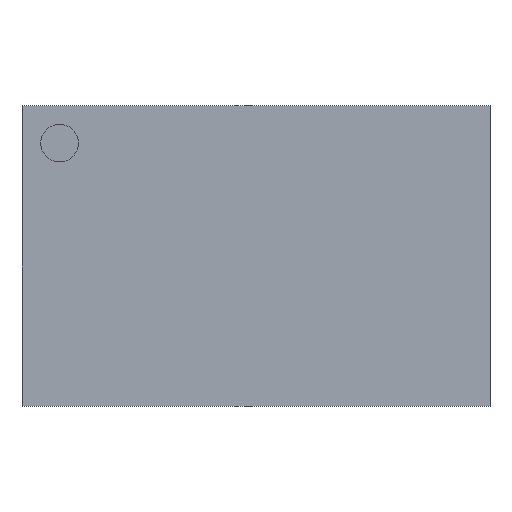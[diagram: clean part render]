
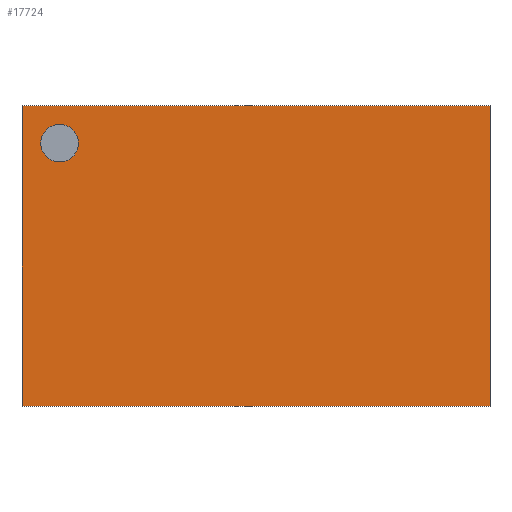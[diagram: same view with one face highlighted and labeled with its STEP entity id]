
A CAD part, top view. The second image highlights one B-rep face of the part: STEP entity #17724.
In plain terms, the highlighted planar face has unit normal (0, 0, 1).
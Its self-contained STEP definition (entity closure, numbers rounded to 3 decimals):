
#17535 = VERTEX_POINT('',#17536);
#17536 = CARTESIAN_POINT('',(-7.,-4.5,1.3));
#17543 = PLANE('',#17544);
#17544 = AXIS2_PLACEMENT_3D('',#17545,#17546,#17547);
#17545 = CARTESIAN_POINT('',(-7.,-4.5,0.25));
#17546 = DIRECTION('',(1.,0.,0.));
#17547 = DIRECTION('',(0.,0.,1.));
#17555 = PLANE('',#17556);
#17556 = AXIS2_PLACEMENT_3D('',#17557,#17558,#17559);
#17557 = CARTESIAN_POINT('',(-7.,-4.5,0.25));
#17558 = DIRECTION('',(0.,1.,0.));
#17559 = DIRECTION('',(0.,0.,1.));
#17596 = VERTEX_POINT('',#17597);
#17597 = CARTESIAN_POINT('',(-7.,4.5,1.3));
#17611 = PLANE('',#17612);
#17612 = AXIS2_PLACEMENT_3D('',#17613,#17614,#17615);
#17613 = CARTESIAN_POINT('',(-7.,4.5,0.25));
#17614 = DIRECTION('',(0.,1.,0.));
#17615 = DIRECTION('',(0.,0.,1.));
#17623 = EDGE_CURVE('',#17535,#17596,#17624,.T.);
#17624 = SURFACE_CURVE('',#17625,(#17629,#17636),.PCURVE_S1.);
#17625 = LINE('',#17626,#17627);
#17626 = CARTESIAN_POINT('',(-7.,-4.5,1.3));
#17627 = VECTOR('',#17628,1.);
#17628 = DIRECTION('',(0.,1.,0.));
#17629 = PCURVE('',#17543,#17630);
#17630 = DEFINITIONAL_REPRESENTATION('',(#17631),#17635);
#17631 = LINE('',#17632,#17633);
#17632 = CARTESIAN_POINT('',(1.05,0.));
#17633 = VECTOR('',#17634,1.);
#17634 = DIRECTION('',(0.,-1.));
#17635 = ( GEOMETRIC_REPRESENTATION_CONTEXT(2) 
PARAMETRIC_REPRESENTATION_CONTEXT() REPRESENTATION_CONTEXT('2D SPACE',''
  ) );
#17636 = PCURVE('',#17637,#17642);
#17637 = PLANE('',#17638);
#17638 = AXIS2_PLACEMENT_3D('',#17639,#17640,#17641);
#17639 = CARTESIAN_POINT('',(-7.,-4.5,1.3));
#17640 = DIRECTION('',(0.,0.,1.));
#17641 = DIRECTION('',(1.,0.,0.));
#17642 = DEFINITIONAL_REPRESENTATION('',(#17643),#17647);
#17643 = LINE('',#17644,#17645);
#17644 = CARTESIAN_POINT('',(0.,0.));
#17645 = VECTOR('',#17646,1.);
#17646 = DIRECTION('',(0.,1.));
#17647 = ( GEOMETRIC_REPRESENTATION_CONTEXT(2) 
PARAMETRIC_REPRESENTATION_CONTEXT() REPRESENTATION_CONTEXT('2D SPACE',''
  ) );
#17676 = EDGE_CURVE('',#17535,#17677,#17679,.T.);
#17677 = VERTEX_POINT('',#17678);
#17678 = CARTESIAN_POINT('',(7.,-4.5,1.3));
#17679 = SURFACE_CURVE('',#17680,(#17684,#17691),.PCURVE_S1.);
#17680 = LINE('',#17681,#17682);
#17681 = CARTESIAN_POINT('',(-7.,-4.5,1.3));
#17682 = VECTOR('',#17683,1.);
#17683 = DIRECTION('',(1.,0.,0.));
#17684 = PCURVE('',#17555,#17685);
#17685 = DEFINITIONAL_REPRESENTATION('',(#17686),#17690);
#17686 = LINE('',#17687,#17688);
#17687 = CARTESIAN_POINT('',(1.05,0.));
#17688 = VECTOR('',#17689,1.);
#17689 = DIRECTION('',(0.,1.));
#17690 = ( GEOMETRIC_REPRESENTATION_CONTEXT(2) 
PARAMETRIC_REPRESENTATION_CONTEXT() REPRESENTATION_CONTEXT('2D SPACE',''
  ) );
#17691 = PCURVE('',#17637,#17692);
#17692 = DEFINITIONAL_REPRESENTATION('',(#17693),#17697);
#17693 = LINE('',#17694,#17695);
#17694 = CARTESIAN_POINT('',(0.,0.));
#17695 = VECTOR('',#17696,1.);
#17696 = DIRECTION('',(1.,0.));
#17697 = ( GEOMETRIC_REPRESENTATION_CONTEXT(2) 
PARAMETRIC_REPRESENTATION_CONTEXT() REPRESENTATION_CONTEXT('2D SPACE',''
  ) );
#17713 = PLANE('',#17714);
#17714 = AXIS2_PLACEMENT_3D('',#17715,#17716,#17717);
#17715 = CARTESIAN_POINT('',(7.,-4.5,0.25));
#17716 = DIRECTION('',(1.,0.,0.));
#17717 = DIRECTION('',(0.,0.,1.));
#17724 = ADVANCED_FACE('',(#17725,#17773),#17637,.T.);
#17725 = FACE_BOUND('',#17726,.T.);
#17726 = EDGE_LOOP('',(#17727,#17728,#17729,#17752));
#17727 = ORIENTED_EDGE('',*,*,#17623,.F.);
#17728 = ORIENTED_EDGE('',*,*,#17676,.T.);
#17729 = ORIENTED_EDGE('',*,*,#17730,.T.);
#17730 = EDGE_CURVE('',#17677,#17731,#17733,.T.);
#17731 = VERTEX_POINT('',#17732);
#17732 = CARTESIAN_POINT('',(7.,4.5,1.3));
#17733 = SURFACE_CURVE('',#17734,(#17738,#17745),.PCURVE_S1.);
#17734 = LINE('',#17735,#17736);
#17735 = CARTESIAN_POINT('',(7.,-4.5,1.3));
#17736 = VECTOR('',#17737,1.);
#17737 = DIRECTION('',(0.,1.,0.));
#17738 = PCURVE('',#17637,#17739);
#17739 = DEFINITIONAL_REPRESENTATION('',(#17740),#17744);
#17740 = LINE('',#17741,#17742);
#17741 = CARTESIAN_POINT('',(14.,0.));
#17742 = VECTOR('',#17743,1.);
#17743 = DIRECTION('',(0.,1.));
#17744 = ( GEOMETRIC_REPRESENTATION_CONTEXT(2) 
PARAMETRIC_REPRESENTATION_CONTEXT() REPRESENTATION_CONTEXT('2D SPACE',''
  ) );
#17745 = PCURVE('',#17713,#17746);
#17746 = DEFINITIONAL_REPRESENTATION('',(#17747),#17751);
#17747 = LINE('',#17748,#17749);
#17748 = CARTESIAN_POINT('',(1.05,0.));
#17749 = VECTOR('',#17750,1.);
#17750 = DIRECTION('',(0.,-1.));
#17751 = ( GEOMETRIC_REPRESENTATION_CONTEXT(2) 
PARAMETRIC_REPRESENTATION_CONTEXT() REPRESENTATION_CONTEXT('2D SPACE',''
  ) );
#17752 = ORIENTED_EDGE('',*,*,#17753,.F.);
#17753 = EDGE_CURVE('',#17596,#17731,#17754,.T.);
#17754 = SURFACE_CURVE('',#17755,(#17759,#17766),.PCURVE_S1.);
#17755 = LINE('',#17756,#17757);
#17756 = CARTESIAN_POINT('',(-7.,4.5,1.3));
#17757 = VECTOR('',#17758,1.);
#17758 = DIRECTION('',(1.,0.,0.));
#17759 = PCURVE('',#17637,#17760);
#17760 = DEFINITIONAL_REPRESENTATION('',(#17761),#17765);
#17761 = LINE('',#17762,#17763);
#17762 = CARTESIAN_POINT('',(0.,9.));
#17763 = VECTOR('',#17764,1.);
#17764 = DIRECTION('',(1.,0.));
#17765 = ( GEOMETRIC_REPRESENTATION_CONTEXT(2) 
PARAMETRIC_REPRESENTATION_CONTEXT() REPRESENTATION_CONTEXT('2D SPACE',''
  ) );
#17766 = PCURVE('',#17611,#17767);
#17767 = DEFINITIONAL_REPRESENTATION('',(#17768),#17772);
#17768 = LINE('',#17769,#17770);
#17769 = CARTESIAN_POINT('',(1.05,0.));
#17770 = VECTOR('',#17771,1.);
#17771 = DIRECTION('',(0.,1.));
#17772 = ( GEOMETRIC_REPRESENTATION_CONTEXT(2) 
PARAMETRIC_REPRESENTATION_CONTEXT() REPRESENTATION_CONTEXT('2D SPACE',''
  ) );
#17773 = FACE_BOUND('',#17774,.T.);
#17774 = EDGE_LOOP('',(#17775));
#17775 = ORIENTED_EDGE('',*,*,#17776,.F.);
#17776 = EDGE_CURVE('',#17777,#17777,#17779,.T.);
#17777 = VERTEX_POINT('',#17778);
#17778 = CARTESIAN_POINT('',(-5.313,3.375,1.3));
#17779 = SURFACE_CURVE('',#17780,(#17785,#17792),.PCURVE_S1.);
#17780 = CIRCLE('',#17781,0.563);
#17781 = AXIS2_PLACEMENT_3D('',#17782,#17783,#17784);
#17782 = CARTESIAN_POINT('',(-5.875,3.375,1.3));
#17783 = DIRECTION('',(0.,0.,1.));
#17784 = DIRECTION('',(1.,0.,0.));
#17785 = PCURVE('',#17637,#17786);
#17786 = DEFINITIONAL_REPRESENTATION('',(#17787),#17791);
#17787 = CIRCLE('',#17788,0.563);
#17788 = AXIS2_PLACEMENT_2D('',#17789,#17790);
#17789 = CARTESIAN_POINT('',(1.125,7.875));
#17790 = DIRECTION('',(1.,0.));
#17791 = ( GEOMETRIC_REPRESENTATION_CONTEXT(2) 
PARAMETRIC_REPRESENTATION_CONTEXT() REPRESENTATION_CONTEXT('2D SPACE',''
  ) );
#17792 = PCURVE('',#17793,#17798);
#17793 = CYLINDRICAL_SURFACE('',#17794,0.563);
#17794 = AXIS2_PLACEMENT_3D('',#17795,#17796,#17797);
#17795 = CARTESIAN_POINT('',(-5.875,3.375,1.17));
#17796 = DIRECTION('',(0.,0.,1.));
#17797 = DIRECTION('',(1.,0.,0.));
#17798 = DEFINITIONAL_REPRESENTATION('',(#17799),#17803);
#17799 = LINE('',#17800,#17801);
#17800 = CARTESIAN_POINT('',(0.,0.13));
#17801 = VECTOR('',#17802,1.);
#17802 = DIRECTION('',(1.,0.));
#17803 = ( GEOMETRIC_REPRESENTATION_CONTEXT(2) 
PARAMETRIC_REPRESENTATION_CONTEXT() REPRESENTATION_CONTEXT('2D SPACE',''
  ) );
